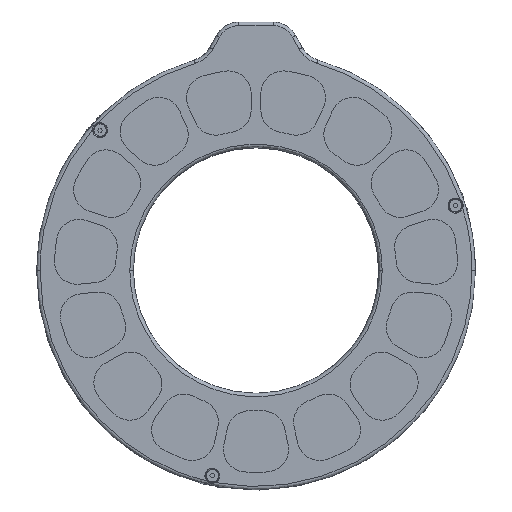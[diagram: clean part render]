
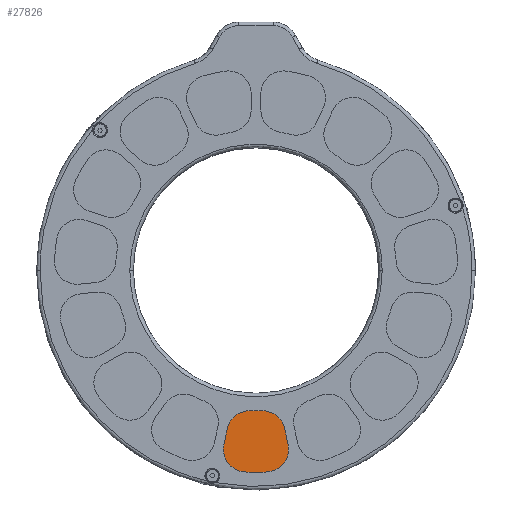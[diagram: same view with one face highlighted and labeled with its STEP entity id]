
A CAD part, top view. The second image highlights one B-rep face of the part: STEP entity #27826.
In plain terms, the highlighted planar face has unit normal (0, 0, 1).
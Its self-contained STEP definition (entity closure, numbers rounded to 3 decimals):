
#108 = EDGE_CURVE ( 'NONE', #6399, #29799, #743, .T. ) ;
#364 = EDGE_CURVE ( 'NONE', #9164, #6399, #22251, .T. ) ;
#743 = LINE ( 'NONE', #18081, #16730 ) ;
#1509 = CARTESIAN_POINT ( 'NONE',  ( 11.454, -58.696, 1.5 ) ) ;
#1622 = ORIENTED_EDGE ( 'NONE', *, *, #19238, .F. ) ;
#1674 = CARTESIAN_POINT ( 'NONE',  ( 10.425, -53.855, 1.5 ) ) ;
#2519 = CARTESIAN_POINT ( 'NONE',  ( 3.506, -62.902, 1.5 ) ) ;
#3372 = CARTESIAN_POINT ( 'NONE',  ( -10.589, -55.414, 1.5 ) ) ;
#3386 = EDGE_CURVE ( 'NONE', #10663, #16037, #18293, .T. ) ;
#4102 = CARTESIAN_POINT ( 'NONE',  ( -1.733, -42.965, 1.5 ) ) ;
#5374 = DIRECTION ( 'NONE',  ( 0.208, 0.978, 0. ) ) ;
#5806 = DIRECTION ( 'NONE',  ( 0., 0., -1. ) ) ;
#6192 = CARTESIAN_POINT ( 'NONE',  ( -9.372, -48.9, 1.5 ) ) ;
#6264 = VERTEX_POINT ( 'NONE', #23498 ) ;
#6399 = VERTEX_POINT ( 'NONE', #20786 ) ;
#7056 = EDGE_CURVE ( 'NONE', #10513, #12603, #32604, .T. ) ;
#7775 = EDGE_CURVE ( 'NONE', #12603, #9164, #12440, .T. ) ;
#7967 = DIRECTION ( 'NONE',  ( -1., 0., 0. ) ) ;
#8125 = CARTESIAN_POINT ( 'NONE',  ( 1.733, -42.965, 1.5 ) ) ;
#8298 = CARTESIAN_POINT ( 'NONE',  ( 9.372, -48.9, 1.5 ) ) ;
#8301 = CARTESIAN_POINT ( 'NONE',  ( -10.589, -55.414, 1.5 ) ) ;
#9164 = VERTEX_POINT ( 'NONE', #10280 ) ;
#9861 = ORIENTED_EDGE ( 'NONE', *, *, #19598, .F. ) ;
#10280 = CARTESIAN_POINT ( 'NONE',  ( 1.733, -42.965, 1.5 ) ) ;
#10455 = CARTESIAN_POINT ( 'NONE',  ( -10.425, -53.855, 1.5 ) ) ;
#10513 = VERTEX_POINT ( 'NONE', #6192 ) ;
#10663 = VERTEX_POINT ( 'NONE', #32194 ) ;
#10679 = DIRECTION ( 'NONE',  ( 0.208, -0.978, 0. ) ) ;
#10932 = CARTESIAN_POINT ( 'NONE',  ( -29.255, -13.461, 1.5 ) ) ;
#11765 = CARTESIAN_POINT ( 'NONE',  ( 3.506, -62.902, 1.5 ) ) ;
#11855 = CARTESIAN_POINT ( 'NONE',  ( -9.372, -48.9, 1.5 ) ) ;
#12385 = ORIENTED_EDGE ( 'NONE', *, *, #7056, .F. ) ;
#12440 =( BOUNDED_CURVE ( )  B_SPLINE_CURVE ( 3, ( #27074, #24446, #29542, #24282 ),
 .UNSPECIFIED., .F., .F. ) 
 B_SPLINE_CURVE_WITH_KNOTS ( ( 4, 4 ),
 ( 0., 1. ),
 .UNSPECIFIED. ) 
 CURVE ( )  GEOMETRIC_REPRESENTATION_ITEM ( )  RATIONAL_B_SPLINE_CURVE ( ( 1., 0.999, 0.999, 1. ) ) 
 REPRESENTATION_ITEM ( '' )  );
#12603 = VERTEX_POINT ( 'NONE', #4102 ) ;
#13251 = ORIENTED_EDGE ( 'NONE', *, *, #17136, .F. ) ;
#13437 = LINE ( 'NONE', #20213, #20776 ) ;
#14471 = CARTESIAN_POINT ( 'NONE',  ( -8.576, -45.158, 1.5 ) ) ;
#14631 = ORIENTED_EDGE ( 'NONE', *, *, #28863, .F. ) ;
#14739 = FACE_OUTER_BOUND ( 'NONE', #27966, .T. ) ;
#15545 = CARTESIAN_POINT ( 'NONE',  ( 5.555, -42.811, 1.5 ) ) ;
#15940 = CARTESIAN_POINT ( 'NONE',  ( -7.701, -62.669, 1.5 ) ) ;
#16037 = VERTEX_POINT ( 'NONE', #3372 ) ;
#16381 = VERTEX_POINT ( 'NONE', #21801 ) ;
#16730 = VECTOR ( 'NONE', #10679, 1000. ) ;
#16757 = CARTESIAN_POINT ( 'NONE',  ( -3.506, -62.902, 1.5 ) ) ;
#17136 = EDGE_CURVE ( 'NONE', #29799, #16381, #27039, .T. ) ;
#17865 = CARTESIAN_POINT ( 'NONE',  ( -10.589, -54.889, 1.5 ) ) ;
#18081 = CARTESIAN_POINT ( 'NONE',  ( -16.734, 73.919, 1.5 ) ) ;
#18293 =( BOUNDED_CURVE ( )  B_SPLINE_CURVE ( 3, ( #28455, #15940, #25979, #20408 ),
 .UNSPECIFIED., .F., .F. ) 
 B_SPLINE_CURVE_WITH_KNOTS ( ( 4, 4 ),
 ( 0., 1. ),
 .UNSPECIFIED. ) 
 CURVE ( )  GEOMETRIC_REPRESENTATION_ITEM ( )  RATIONAL_B_SPLINE_CURVE ( ( 1., 0.818, 0.818, 1. ) ) 
 REPRESENTATION_ITEM ( '' )  );
#19238 = EDGE_CURVE ( 'NONE', #6264, #10513, #13437, .T. ) ;
#19589 = CARTESIAN_POINT ( 'NONE',  ( -1.733, -42.965, 1.5 ) ) ;
#19598 = EDGE_CURVE ( 'NONE', #16037, #6264, #25590, .T. ) ;
#20173 = CARTESIAN_POINT ( 'NONE',  ( 1.17, -63.033, 1.5 ) ) ;
#20213 = CARTESIAN_POINT ( 'NONE',  ( 0.978, -0.208, 1.5 ) ) ;
#20408 = CARTESIAN_POINT ( 'NONE',  ( -10.589, -55.414, 1.5 ) ) ;
#20437 = ORIENTED_EDGE ( 'NONE', *, *, #3386, .F. ) ;
#20776 = VECTOR ( 'NONE', #5374, 1000. ) ;
#20786 = CARTESIAN_POINT ( 'NONE',  ( 9.372, -48.9, 1.5 ) ) ;
#21801 = CARTESIAN_POINT ( 'NONE',  ( 3.506, -62.902, 1.5 ) ) ;
#21900 = CARTESIAN_POINT ( 'NONE',  ( -5.555, -42.811, 1.5 ) ) ;
#22131 = CARTESIAN_POINT ( 'NONE',  ( 8.448, -62.627, 1.5 ) ) ;
#22251 =( BOUNDED_CURVE ( )  B_SPLINE_CURVE ( 3, ( #8125, #15545, #25737, #8298 ),
 .UNSPECIFIED., .F., .F. ) 
 B_SPLINE_CURVE_WITH_KNOTS ( ( 4, 4 ),
 ( 0., 1. ),
 .UNSPECIFIED. ) 
 CURVE ( )  GEOMETRIC_REPRESENTATION_ITEM ( )  RATIONAL_B_SPLINE_CURVE ( ( 1., 0.843, 0.843, 1. ) ) 
 REPRESENTATION_ITEM ( '' )  );
#22279 = ORIENTED_EDGE ( 'NONE', *, *, #364, .F. ) ;
#22649 = CARTESIAN_POINT ( 'NONE',  ( -1.17, -63.033, 1.5 ) ) ;
#22811 = CARTESIAN_POINT ( 'NONE',  ( -10.534, -54.368, 1.5 ) ) ;
#23362 = CARTESIAN_POINT ( 'NONE',  ( 10.425, -53.855, 1.5 ) ) ;
#23438 = PLANE ( 'NONE',  #31876 ) ;
#23498 = CARTESIAN_POINT ( 'NONE',  ( -10.425, -53.855, 1.5 ) ) ;
#24282 = CARTESIAN_POINT ( 'NONE',  ( 1.733, -42.965, 1.5 ) ) ;
#24446 = CARTESIAN_POINT ( 'NONE',  ( -0.578, -43.012, 1.5 ) ) ;
#25590 =( BOUNDED_CURVE ( )  B_SPLINE_CURVE ( 3, ( #8301, #17865, #22811, #10455 ),
 .UNSPECIFIED., .F., .T. ) 
 B_SPLINE_CURVE_WITH_KNOTS ( ( 4, 4 ),
 ( 0., 1. ),
 .UNSPECIFIED. ) 
 CURVE ( )  GEOMETRIC_REPRESENTATION_ITEM ( )  RATIONAL_B_SPLINE_CURVE ( ( 1., 0.996, 0.996, 1. ) ) 
 REPRESENTATION_ITEM ( '' )  );
#25655 = ORIENTED_EDGE ( 'NONE', *, *, #7775, .F. ) ;
#25737 = CARTESIAN_POINT ( 'NONE',  ( 8.576, -45.158, 1.5 ) ) ;
#25979 = CARTESIAN_POINT ( 'NONE',  ( -10.589, -59.616, 1.5 ) ) ;
#27039 =( BOUNDED_CURVE ( )  B_SPLINE_CURVE ( 3, ( #1674, #1509, #22131, #11765 ),
 .UNSPECIFIED., .F., .F. ) 
 B_SPLINE_CURVE_WITH_KNOTS ( ( 4, 4 ),
 ( 0., 1. ),
 .UNSPECIFIED. ) 
 CURVE ( )  GEOMETRIC_REPRESENTATION_ITEM ( )  RATIONAL_B_SPLINE_CURVE ( ( 1., 0.767, 0.767, 1. ) ) 
 REPRESENTATION_ITEM ( '' )  );
#27074 = CARTESIAN_POINT ( 'NONE',  ( -1.733, -42.965, 1.5 ) ) ;
#27826 = ADVANCED_FACE ( 'NONE', ( #14739 ), #23438, .F. ) ;
#27966 = EDGE_LOOP ( 'NONE', ( #1622, #9861, #20437, #14631, #13251, #31730, #22279, #25655, #12385 ) ) ;
#28176 =( BOUNDED_CURVE ( )  B_SPLINE_CURVE ( 3, ( #2519, #20173, #22649, #16757 ),
 .UNSPECIFIED., .F., .F. ) 
 B_SPLINE_CURVE_WITH_KNOTS ( ( 4, 4 ),
 ( 0., 1. ),
 .UNSPECIFIED. ) 
 CURVE ( )  GEOMETRIC_REPRESENTATION_ITEM ( )  RATIONAL_B_SPLINE_CURVE ( ( 1., 0.999, 0.999, 1. ) ) 
 REPRESENTATION_ITEM ( '' )  );
#28455 = CARTESIAN_POINT ( 'NONE',  ( -3.506, -62.902, 1.5 ) ) ;
#28863 = EDGE_CURVE ( 'NONE', #16381, #10663, #28176, .T. ) ;
#29542 = CARTESIAN_POINT ( 'NONE',  ( 0.578, -43.012, 1.5 ) ) ;
#29799 = VERTEX_POINT ( 'NONE', #23362 ) ;
#31730 = ORIENTED_EDGE ( 'NONE', *, *, #108, .F. ) ;
#31876 = AXIS2_PLACEMENT_3D ( 'NONE', #10932, #5806, #7967 ) ;
#32194 = CARTESIAN_POINT ( 'NONE',  ( -3.506, -62.902, 1.5 ) ) ;
#32604 =( BOUNDED_CURVE ( )  B_SPLINE_CURVE ( 3, ( #11855, #14471, #21900, #19589 ),
 .UNSPECIFIED., .F., .F. ) 
 B_SPLINE_CURVE_WITH_KNOTS ( ( 4, 4 ),
 ( 0., 1. ),
 .UNSPECIFIED. ) 
 CURVE ( )  GEOMETRIC_REPRESENTATION_ITEM ( )  RATIONAL_B_SPLINE_CURVE ( ( 1., 0.843, 0.843, 1. ) ) 
 REPRESENTATION_ITEM ( '' )  );
